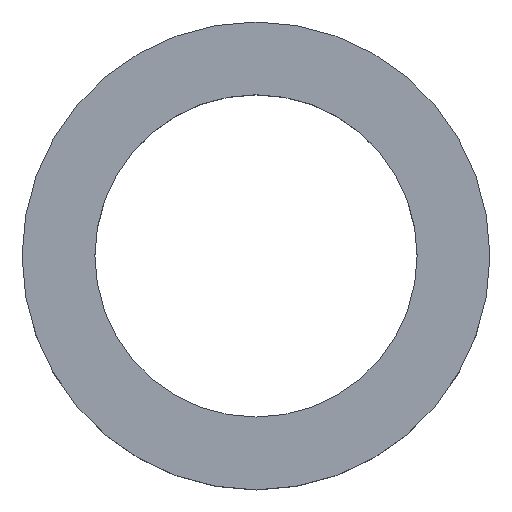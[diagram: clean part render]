
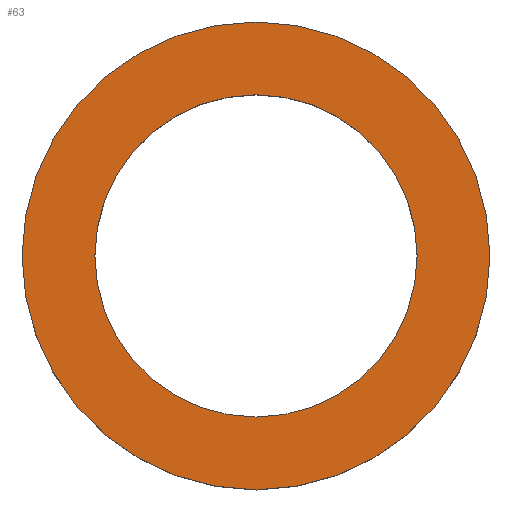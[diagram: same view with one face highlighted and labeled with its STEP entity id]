
A CAD part, top view. The second image highlights one B-rep face of the part: STEP entity #63.
In plain terms, the highlighted planar face has unit normal (0, 0, 1).
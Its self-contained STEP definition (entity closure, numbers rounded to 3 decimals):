
#15=FACE_BOUND('',#26,.T.);
#17=PLANE('',#91);
#21=FACE_OUTER_BOUND('',#25,.T.);
#25=EDGE_LOOP('',(#55));
#26=EDGE_LOOP('',(#56));
#34=CIRCLE('',#87,3.1);
#36=CIRCLE('',#90,4.5);
#38=VERTEX_POINT('',#117);
#40=VERTEX_POINT('',#123);
#43=EDGE_CURVE('',#38,#38,#34,.T.);
#46=EDGE_CURVE('',#40,#40,#36,.T.);
#55=ORIENTED_EDGE('',*,*,#46,.T.);
#56=ORIENTED_EDGE('',*,*,#43,.T.);
#63=ADVANCED_FACE('',(#21,#15),#17,.T.);
#87=AXIS2_PLACEMENT_3D('',#119,#100,#101);
#90=AXIS2_PLACEMENT_3D('',#125,#107,#108);
#91=AXIS2_PLACEMENT_3D('',#126,#109,#110);
#100=DIRECTION('center_axis',(0.,0.,-1.));
#101=DIRECTION('ref_axis',(-1.,0.,0.));
#107=DIRECTION('center_axis',(0.,0.,1.));
#108=DIRECTION('ref_axis',(1.,0.,0.));
#109=DIRECTION('center_axis',(0.,0.,1.));
#110=DIRECTION('ref_axis',(1.,0.,0.));
#117=CARTESIAN_POINT('',(3.1,0.,0.));
#119=CARTESIAN_POINT('Origin',(0.,0.,0.));
#123=CARTESIAN_POINT('',(-4.5,0.,0.));
#125=CARTESIAN_POINT('Origin',(0.,0.,0.));
#126=CARTESIAN_POINT('Origin',(0.,0.,0.));
